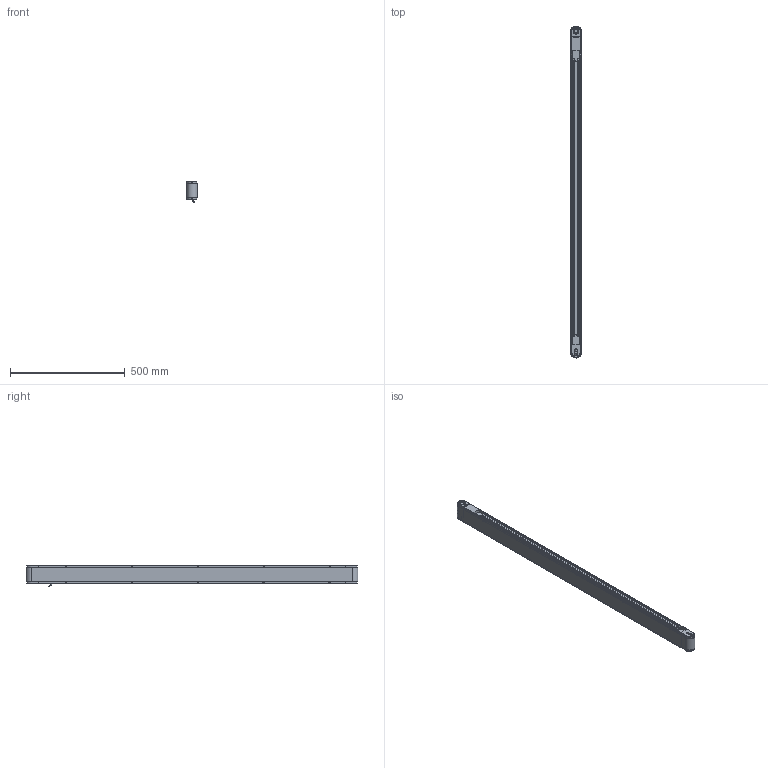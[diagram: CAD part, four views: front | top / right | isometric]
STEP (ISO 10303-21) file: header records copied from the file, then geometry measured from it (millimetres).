
FILE_DESCRIPTION(/* description */ (''),/* implementation_level */ '2;1');
FILE_NAME(/* name */ 'G:\DATEN\CAD\Förderband\Marketing\3D-Modelle (Standard)\FR-40-80\FR-40-80-1400-K.stp',/* time_stamp */ '2019-05-08T08:21:40+02:00',/* author */ ('melanie.ochs'),/* organization */ (''),/* preprocessor_version */ 'ST-DEVELOPER v17',/* originating_system */ 'Autodesk Inventor 2019',/* authorisation */ '');
FILE_SCHEMA (('CONFIG_CONTROL_DESIGN'));
Length unit declared in the file: centimetre
Products named in the file (1): FR-40-80-1400-K
Bounding box: 46.6 x 1446.6 x 92.72 mm (x, y, z)
Volume: 1882082.4 mm3; surface area: 1445479.6 mm2
Topology: 31 solids, 32 shells, 1021 faces, 2779 edges, 1892 vertices
Faces by surface type: plane 506, cylinder 291, bspline 122, cone 72, torus 30
Full cylindrical faces by diameter (mm): 1 x6, 4 x6, 4.3 x4, 4.64 x2, 4.917 x1, 5 x11, 5.5 x8, 6 x4, 6.773 x1, 8 x5, 8.3 x20, 8.5 x8, 8.773 x1, 10 x1, 11 x1, 12 x3, 15 x4, 20 x2, 25 x2, 28 x4, 44 x3
Entity records: 34794 total; most frequent: CARTESIAN_POINT 8048, ORIENTED_EDGE 5528, DIRECTION 5095, EDGE_CURVE 2764, VERTEX_POINT 1892, AXIS2_PLACEMENT_3D 1801, LINE 1493, VECTOR 1493
